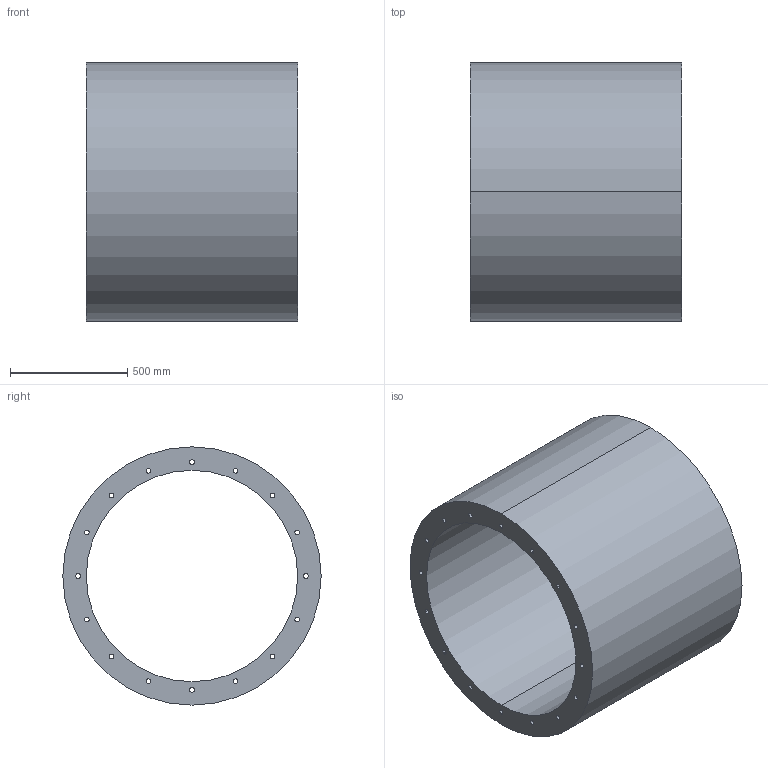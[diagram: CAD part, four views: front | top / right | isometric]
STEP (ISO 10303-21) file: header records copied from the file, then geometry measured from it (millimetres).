
FILE_DESCRIPTION(('STEP AP214'),'1');
FILE_NAME('accessory_5211812300.stp','2017-10-09T11:37:04',('TraceParts'),('TraceParts S.A.'),'Spatial InterOp 3D',' ',' ');
FILE_SCHEMA(('automotive_design'));
Length unit declared in the file: millimetre
Products named in the file (1): accessory_5211812300
Bounding box: 900 x 1100 x 1100 mm (x, y, z)
Volume: 278219445.4 mm3; surface area: 7177910.9 mm2
Topology: 1 solids, 1 shells, 38 faces, 108 edges, 72 vertices
Faces by surface type: cylinder 36, plane 2
Entity records: 1672 total; most frequent: DIRECTION 258, CARTESIAN_POINT 219, ORIENTED_EDGE 216, AXIS2_PLACEMENT_3D 111, EDGE_CURVE 108, EDGE_LOOP 72, VERTEX_POINT 72, CIRCLE 72
